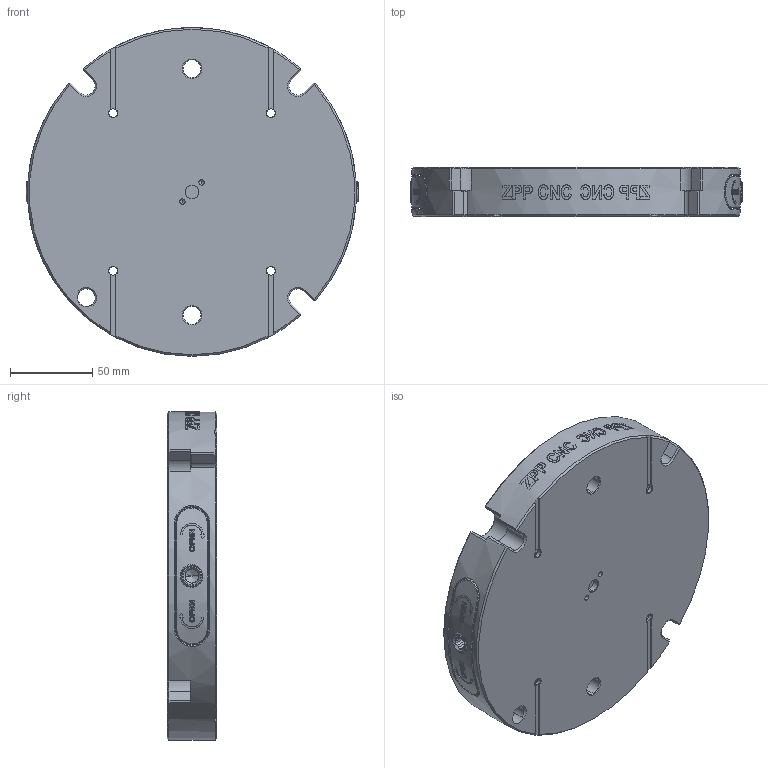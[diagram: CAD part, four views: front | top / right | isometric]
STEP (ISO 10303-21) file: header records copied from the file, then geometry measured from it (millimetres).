
FILE_DESCRIPTION((''),'2;1');
FILE_NAME('TS96-200','2025-09-15T08:49:22',('XF'),(''),'CREO PARAMETRIC BY PTC INC, 2023073','CREO PARAMETRIC BY PTC INC, 2023073','');
FILE_SCHEMA(('CONFIG_CONTROL_DESIGN'));
Products named in the file (1): TS96-200
Bounding box: 202 x 30 x 200 mm (x, y, z)
Volume: 871748.1 mm3; surface area: 100172 mm2
Topology: 1 solids, 1 shells, 1331 faces, 3820 edges, 2584 vertices
Faces by surface type: plane 673, extrusion 358, cylinder 180, cone 92, bspline 20, torus 8
Entity records: 50842 total; most frequent: CARTESIAN_POINT 17243, ORIENTED_EDGE 7608, DIRECTION 5738, EDGE_CURVE 3804, VERTEX_POINT 2584, VECTOR 2436, LINE 2078, AXIS2_PLACEMENT_3D 1651
